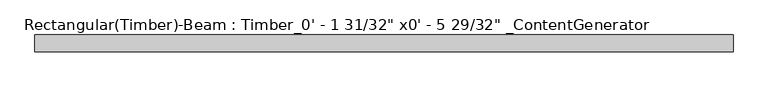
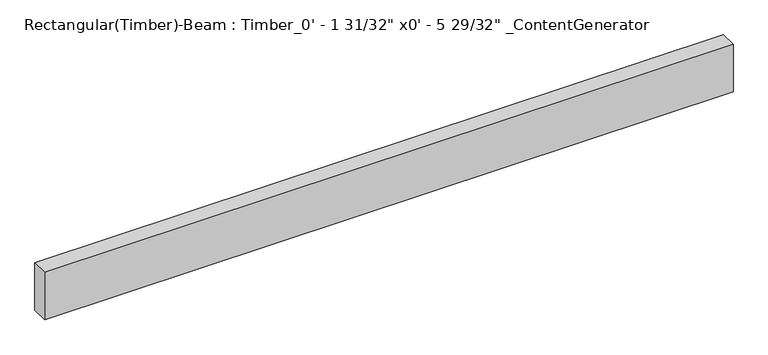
"""IFC4 building model written with IfcOpenShell, lengths in millimetres: beam geometry."""

from ifc_helpers import new_model, si_unit, frame, origin, place, context, project, spatial, polyline, outline, extrude, source, transform, mapped, element, save


def beam_9beb57b8(model_context):
    return source(origin(), model_context, "Body", "SweptSolid", [
        extrude(outline(polyline([(1050.925, 25.4), (1050.925, -25.4), (-1050.925, -25.4), (-1050.925, 25.4), (1050.925, 25.4)])), frame((0.0, 0.0, -76.2), z_axis=(0.0, 0.0, 1.0), x_axis=(1.0, 0.0, 0.0)), (0.0, 0.0, 1.0), 152.4),
    ])


if __name__ == "__main__":
    model = new_model("IFC4")
    model_context = context("Model", 3, world=origin())
    ifc_project = project(units=[si_unit("LENGTHUNIT", "METRE", prefix="MILLI")], contexts=[model_context])
    site = spatial("IfcSite", under=ifc_project)
    building = spatial("IfcBuilding", under=site)
    placement = place(None, origin())
    beam_shape = beam_9beb57b8(model_context)
    element("IfcBeam", 1, ObjectType="Rectangular(Timber)-Beam : Timber_0' - 1 31/32\" x0' - 5 29/32\" _ContentGenerator", at=placement, inside=building, context=model_context, shape_type="MappedRepresentation", body=[
        mapped(beam_shape, transform((0.0, 0.0, 0.0), x_axis=(1.0, 0.0, 0.0), y_axis=(0.0, 1.0, 0.0), z_axis=(0.0, 0.0, 1.0))),
    ])
    save(model, "model.ifc")
